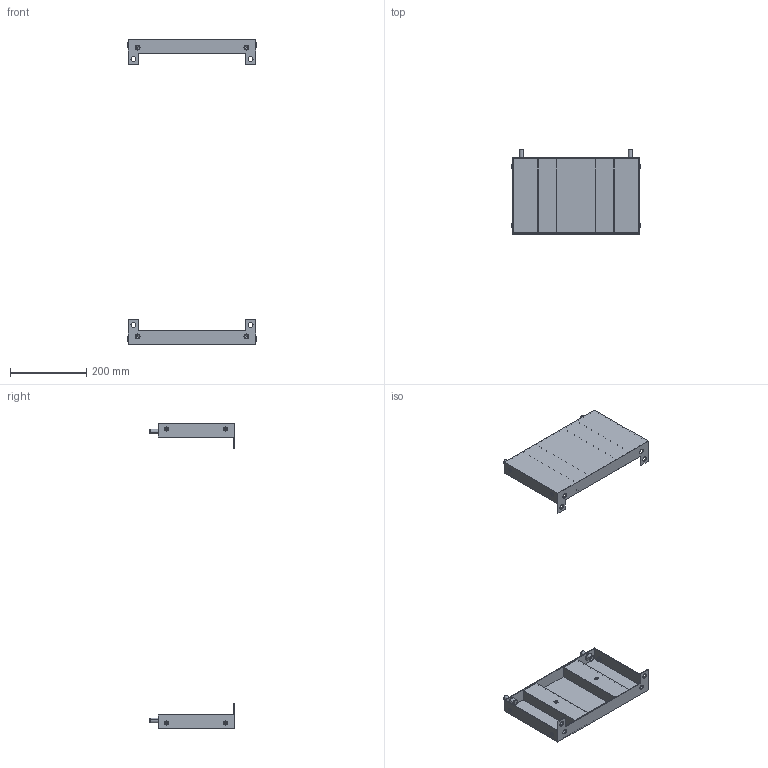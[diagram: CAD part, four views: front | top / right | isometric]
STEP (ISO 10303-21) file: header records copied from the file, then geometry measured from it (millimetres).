
FILE_DESCRIPTION (( 'STEP AP203' ), '1' );
FILE_NAME ('R6PLB40-200 H=800 SIMPLE.STEP', '2026-07-22T11:11:33', ( '' ), ( '' ), 'SwSTEP 2.0', 'SolidWorks 2022', '' );
FILE_SCHEMA (( 'CONFIG_CONTROL_DESIGN' ));
Length unit declared in the file: millimetre
Products named in the file (8): РГМЦ.RB.3309.00.00.0 СБ SIMPLE 04-07_-06; M12x25 DIN 912 HX cl.8,8 Zinc_stright; R6PLB40-200 H=800 SIMPLE; 12 DIN 6798 A Zinc; РГМЦ.RB.3309.00.02.0 simple_-01; M6 MGS-MPO-0635_straight; РГМЦ.RB.3309.00.01.0 simple_-06; M6 MGS-MPO-0635_thread
Assembly tree (19 placements, depth 3):
  R6PLB40-200 H=800 SIMPLE
    РГМЦ.RB.3309.00.00.0 СБ SIMPLE 04-07_-06  x2
      РГМЦ.RB.3309.00.01.0 simple_-06
      M6 MGS-MPO-0635_thread
      РГМЦ.RB.3309.00.02.0 simple_-01
      M6 MGS-MPO-0635_straight
    12 DIN 6798 A Zinc  x4
    M12x25 DIN 912 HX cl.8,8 Zinc_stright  x4
Bounding box: 336.7 x 221.5 x 800 mm (x, y, z)
Volume: 741076.6 mm3; surface area: 606785.8 mm2
Topology: 26 solids, 26 shells, 1468 faces, 3828 edges, 2188 vertices
Faces by surface type: plane 556, cylinder 544, bspline 152, sphere 144, cone 40, torus 32
Entity records: 13372 total; most frequent: CARTESIAN_POINT 5039, ORIENTED_EDGE 1540, DIRECTION 1409, EDGE_CURVE 770, VERTEX_POINT 482, AXIS2_PLACEMENT_3D 473, VECTOR 463, LINE 463
